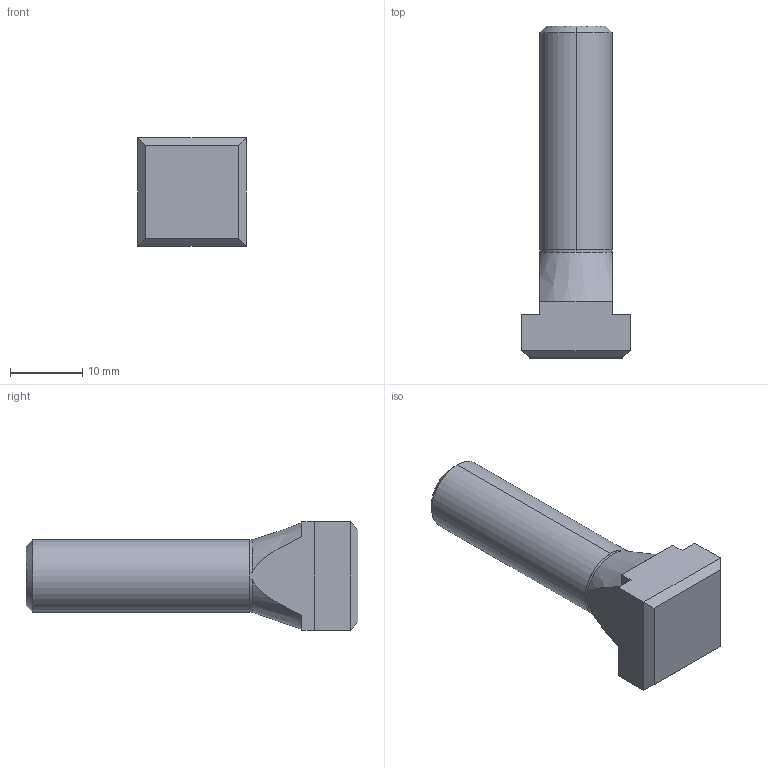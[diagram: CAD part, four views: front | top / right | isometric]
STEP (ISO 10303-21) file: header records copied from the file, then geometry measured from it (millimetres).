
FILE_DESCRIPTION (( 'STEP AP203' ), '1' );
FILE_NAME ('Wiberger-din787_10-m10x40.step', '2016-07-01T13:16:37', ( 'Magnus' ), ( 'Microsoft' ), 'SwSTEP 2.0', 'SolidWorks 2016', '' );
FILE_SCHEMA (( 'CONFIG_CONTROL_DESIGN' ));
Length unit declared in the file: millimetre
Products named in the file (1): Wiberger-din787_10-m10x40
Bounding box: 15 x 46 x 15 mm (x, y, z)
Volume: 4784.1 mm3; surface area: 2042.4 mm2
Topology: 1 solids, 1 shells, 28 faces, 70 edges, 44 vertices
Faces by surface type: plane 18, cone 5, cylinder 5
Entity records: 959 total; most frequent: CARTESIAN_POINT 213, ORIENTED_EDGE 140, DIRECTION 138, EDGE_CURVE 70, AXIS2_PLACEMENT_3D 47, VECTOR 44, LINE 44, VERTEX_POINT 44
